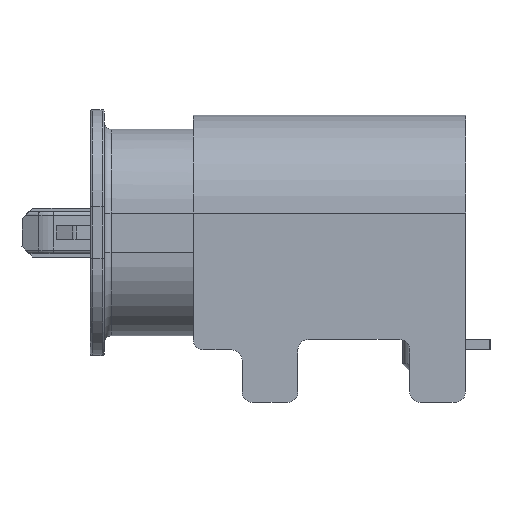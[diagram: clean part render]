
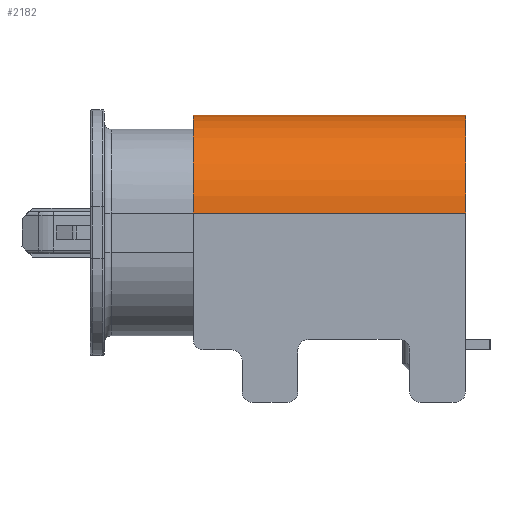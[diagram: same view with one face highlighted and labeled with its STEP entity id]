
A CAD part, left-side view. The second image highlights one B-rep face of the part: STEP entity #2182.
In plain terms, the highlighted cylindrical face has radius 1.4 mm (diameter 2.8 mm), a partial arc.
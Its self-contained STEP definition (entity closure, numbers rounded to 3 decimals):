
#1524 = DIRECTION ( 'NONE',  ( -1., 0., 0. ) ) ;
#2182 = ADVANCED_FACE ( 'NONE', ( #12117 ), #8827, .T. ) ;
#2257 = DIRECTION ( 'NONE',  ( 0., 0., 1. ) ) ;
#2816 = VECTOR ( 'NONE', #6491, 1000. ) ;
#3160 = VERTEX_POINT ( 'NONE', #28204 ) ;
#3811 = CARTESIAN_POINT ( 'NONE',  ( 46.633, -55.78, 0.1 ) ) ;
#6090 = CARTESIAN_POINT ( 'NONE',  ( 46.633, -7.275, 0.1 ) ) ;
#6491 = DIRECTION ( 'NONE',  ( 0., 1., 0. ) ) ;
#8827 = CYLINDRICAL_SURFACE ( 'NONE', #24755, 1.4 ) ;
#9244 = VERTEX_POINT ( 'NONE', #6090 ) ;
#9974 = EDGE_LOOP ( 'NONE', ( #27528, #17761, #27316, #37429 ) ) ;
#12117 = FACE_OUTER_BOUND ( 'NONE', #9974, .T. ) ;
#12148 = DIRECTION ( 'NONE',  ( 0., -1., 0. ) ) ;
#13193 = CARTESIAN_POINT ( 'NONE',  ( 45.233, -55.78, -1.3 ) ) ;
#13548 = VECTOR ( 'NONE', #25702, 1000. ) ;
#15514 = VERTEX_POINT ( 'NONE', #20886 ) ;
#17260 = CIRCLE ( 'NONE', #35601, 1.4 ) ;
#17761 = ORIENTED_EDGE ( 'NONE', *, *, #32157, .T. ) ;
#19325 = CIRCLE ( 'NONE', #39634, 1.4 ) ;
#20886 = CARTESIAN_POINT ( 'NONE',  ( 45.233, -7.275, -1.3 ) ) ;
#20976 = EDGE_CURVE ( 'NONE', #15514, #3160, #29387, .T. ) ;
#21541 = CARTESIAN_POINT ( 'NONE',  ( 46.633, -55.78, -1.3 ) ) ;
#21770 = DIRECTION ( 'NONE',  ( -1., 0., 0. ) ) ;
#22881 = CARTESIAN_POINT ( 'NONE',  ( 46.633, -3.375, -1.3 ) ) ;
#24755 = AXIS2_PLACEMENT_3D ( 'NONE', #21541, #34259, #2257 ) ;
#25702 = DIRECTION ( 'NONE',  ( 0., 1., 0. ) ) ;
#27257 = CARTESIAN_POINT ( 'NONE',  ( 46.633, -3.375, 0.1 ) ) ;
#27316 = ORIENTED_EDGE ( 'NONE', *, *, #34318, .F. ) ;
#27528 = ORIENTED_EDGE ( 'NONE', *, *, #32796, .F. ) ;
#28204 = CARTESIAN_POINT ( 'NONE',  ( 45.233, -3.375, -1.3 ) ) ;
#29387 = LINE ( 'NONE', #13193, #13548 ) ;
#30588 = VERTEX_POINT ( 'NONE', #27257 ) ;
#31930 = LINE ( 'NONE', #3811, #2816 ) ;
#32157 = EDGE_CURVE ( 'NONE', #9244, #30588, #31930, .T. ) ;
#32796 = EDGE_CURVE ( 'NONE', #9244, #15514, #17260, .T. ) ;
#34259 = DIRECTION ( 'NONE',  ( 0., -1., 0. ) ) ;
#34318 = EDGE_CURVE ( 'NONE', #3160, #30588, #19325, .T. ) ;
#35601 = AXIS2_PLACEMENT_3D ( 'NONE', #40233, #12148, #21770 ) ;
#37429 = ORIENTED_EDGE ( 'NONE', *, *, #20976, .F. ) ;
#38874 = DIRECTION ( 'NONE',  ( 0., 1., 0. ) ) ;
#39634 = AXIS2_PLACEMENT_3D ( 'NONE', #22881, #38874, #1524 ) ;
#40233 = CARTESIAN_POINT ( 'NONE',  ( 46.633, -7.275, -1.3 ) ) ;
